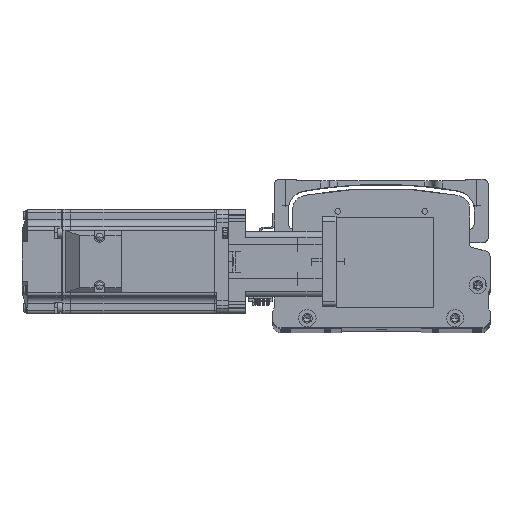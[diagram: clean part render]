
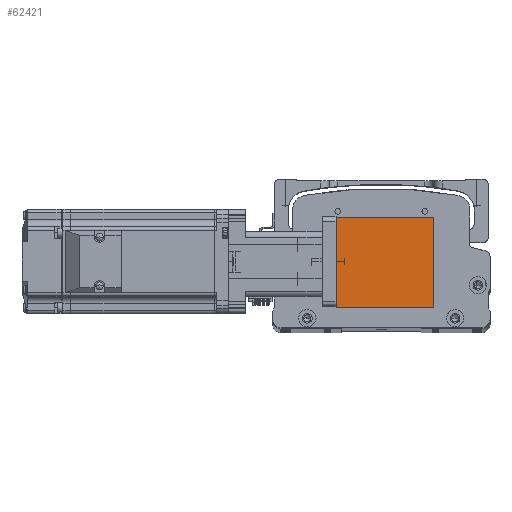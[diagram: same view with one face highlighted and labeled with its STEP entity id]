
A CAD part, top view. The second image highlights one B-rep face of the part: STEP entity #62421.
In plain terms, the highlighted planar face has unit normal (0, 0, 1) as drawn and (-1, 0, 0) by its records, which use the part's own axes.
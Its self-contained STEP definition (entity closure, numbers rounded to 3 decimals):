
#2036 = ORIENTED_EDGE ( 'NONE', *, *, #44697, .T. ) ;
#4008 = VECTOR ( 'NONE', #26787, 1000. ) ;
#5861 = VERTEX_POINT ( 'NONE', #26652 ) ;
#6156 = VECTOR ( 'NONE', #23535, 1000. ) ;
#8414 = EDGE_CURVE ( 'NONE', #5861, #27600, #27144, .T. ) ;
#8433 = EDGE_CURVE ( 'NONE', #61907, #61851, #44139, .T. ) ;
#11802 = CARTESIAN_POINT ( 'NONE',  ( -31.5, -26., 56. ) ) ;
#11931 = ORIENTED_EDGE ( 'NONE', *, *, #8433, .T. ) ;
#15120 = AXIS2_PLACEMENT_3D ( 'NONE', #50190, #35265, #60252 ) ;
#16590 = CARTESIAN_POINT ( 'NONE',  ( -31.5, 26., 56. ) ) ;
#20330 = CARTESIAN_POINT ( 'NONE',  ( -31.5, 26., 0. ) ) ;
#23535 = DIRECTION ( 'NONE',  ( 0., -1., 0. ) ) ;
#24115 = CARTESIAN_POINT ( 'NONE',  ( -31.5, -26., 56. ) ) ;
#26652 = CARTESIAN_POINT ( 'NONE',  ( -31.5, 26., 56. ) ) ;
#26787 = DIRECTION ( 'NONE',  ( 0., 0., -1. ) ) ;
#27144 = LINE ( 'NONE', #52504, #37200 ) ;
#27600 = VERTEX_POINT ( 'NONE', #11802 ) ;
#27617 = EDGE_LOOP ( 'NONE', ( #11931, #30670, #36549, #2036 ) ) ;
#28866 = LINE ( 'NONE', #16590, #4008 ) ;
#30670 = ORIENTED_EDGE ( 'NONE', *, *, #48869, .F. ) ;
#35265 = DIRECTION ( 'NONE',  ( 1., 0., 0. ) ) ;
#36549 = ORIENTED_EDGE ( 'NONE', *, *, #8414, .F. ) ;
#37200 = VECTOR ( 'NONE', #62794, 1000. ) ;
#37404 = LINE ( 'NONE', #24115, #63812 ) ;
#44139 = LINE ( 'NONE', #53156, #6156 ) ;
#44697 = EDGE_CURVE ( 'NONE', #5861, #61907, #28866, .T. ) ;
#48869 = EDGE_CURVE ( 'NONE', #27600, #61851, #37404, .T. ) ;
#50190 = CARTESIAN_POINT ( 'NONE',  ( -31.5, -26., 56. ) ) ;
#52504 = CARTESIAN_POINT ( 'NONE',  ( -31.5, -26., 56. ) ) ;
#53156 = CARTESIAN_POINT ( 'NONE',  ( -31.5, -26., 0. ) ) ;
#54540 = CARTESIAN_POINT ( 'NONE',  ( -31.5, -26., 0. ) ) ;
#55211 = PLANE ( 'NONE',  #15120 ) ;
#58546 = DIRECTION ( 'NONE',  ( 0., 0., -1. ) ) ;
#60252 = DIRECTION ( 'NONE',  ( 0., 0., -1. ) ) ;
#61450 = FACE_OUTER_BOUND ( 'NONE', #27617, .T. ) ;
#61851 = VERTEX_POINT ( 'NONE', #54540 ) ;
#61907 = VERTEX_POINT ( 'NONE', #20330 ) ;
#62421 = ADVANCED_FACE ( 'NONE', ( #61450 ), #55211, .F. ) ;
#62794 = DIRECTION ( 'NONE',  ( 0., -1., 0. ) ) ;
#63812 = VECTOR ( 'NONE', #58546, 1000. ) ;
